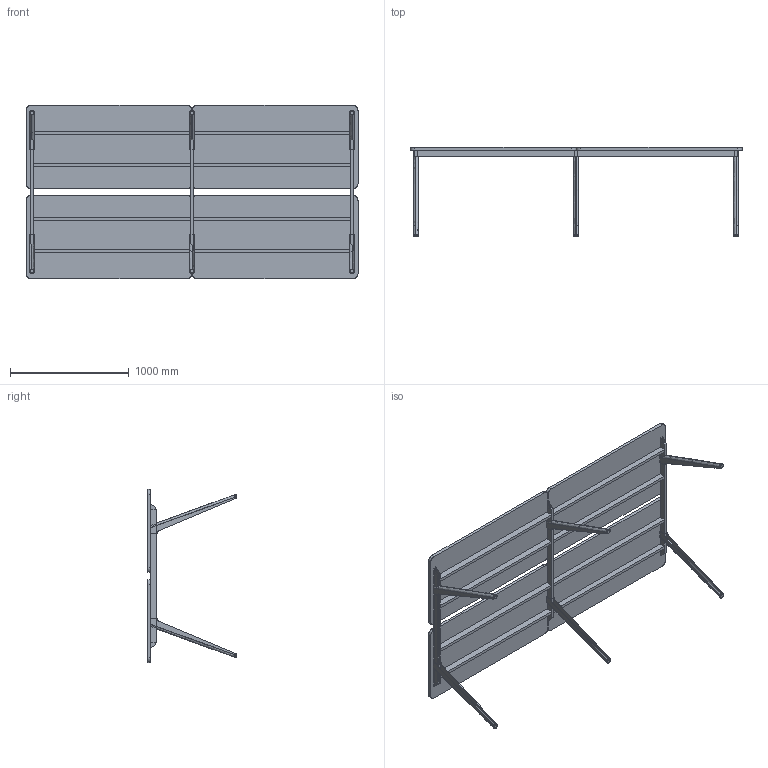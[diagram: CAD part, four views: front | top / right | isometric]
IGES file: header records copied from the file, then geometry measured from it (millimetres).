
Start section: SolidWorks IGES file using analytic representation for surfaces
Global section: file name: C:\Users\simone.cerana\OneDrive - Gruppo Tecno\Desktop\CHINA\DISEGNI DI SERIE\ASSIEMI LISTINO\HORIZON LISTINO\HO2814ST.IGS; native system: SolidWorks 2024; preprocessor: SolidWorks 2024; author: simone.cerana; date: 260508.123735; units: millimetre
Bounding box: 2801 x 749.83 x 1460 mm (x, y, z)
Surface area: 10850970.2 mm2 (no closed solid volume)
Topology: 0 solids, 0 shells, 454 faces, 5918 edges, 5918 vertices
Faces by surface type: bspline 312, revolution 142
